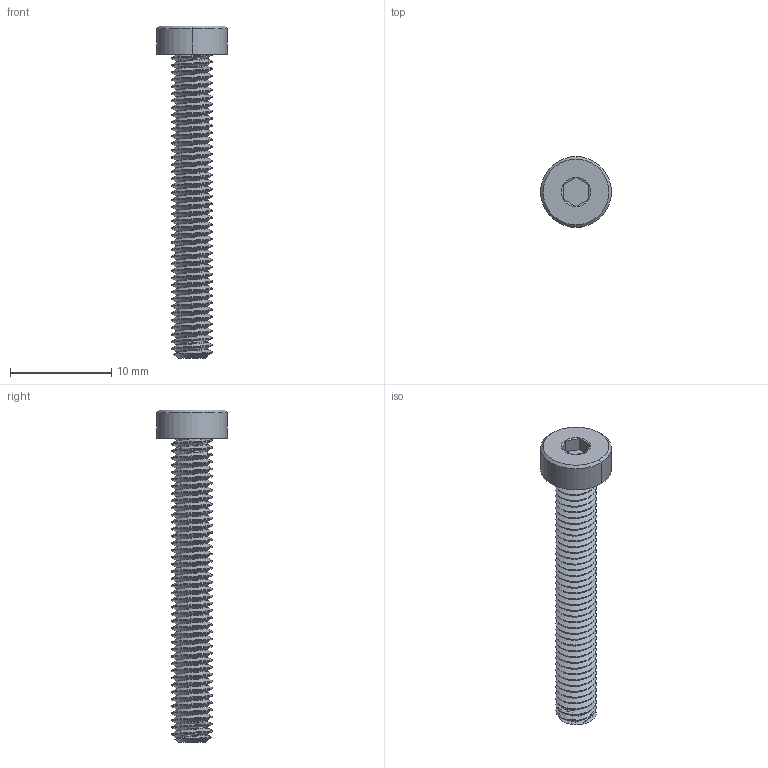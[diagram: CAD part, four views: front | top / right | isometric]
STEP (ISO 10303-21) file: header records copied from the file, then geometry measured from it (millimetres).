
FILE_DESCRIPTION (( 'STEP AP203' ), '1' );
FILE_NAME ('2804-0004-0030.STEP', '2017-04-05T21:32:07', ( '' ), ( '' ), 'SwSTEP 2.0', 'SolidWorks 2016', '' );
FILE_SCHEMA (( 'CONFIG_CONTROL_DESIGN' ));
Length unit declared in the file: inch
Products named in the file (1): 2804-0004-0030
Bounding box: 7 x 7 x 32.8 mm (x, y, z)
Volume: 397.1 mm3; surface area: 726.7 mm2
Topology: 1 solids, 1 shells, 197 faces, 564 edges, 371 vertices
Faces by surface type: cylinder 175, cone 10, plane 10, bspline 2
Entity records: 12378 total; most frequent: CARTESIAN_POINT 8192, ORIENTED_EDGE 1128, DIRECTION 623, EDGE_CURVE 564, VERTEX_POINT 371, AXIS2_PLACEMENT_3D 217, EDGE_LOOP 199, ADVANCED_FACE 197
